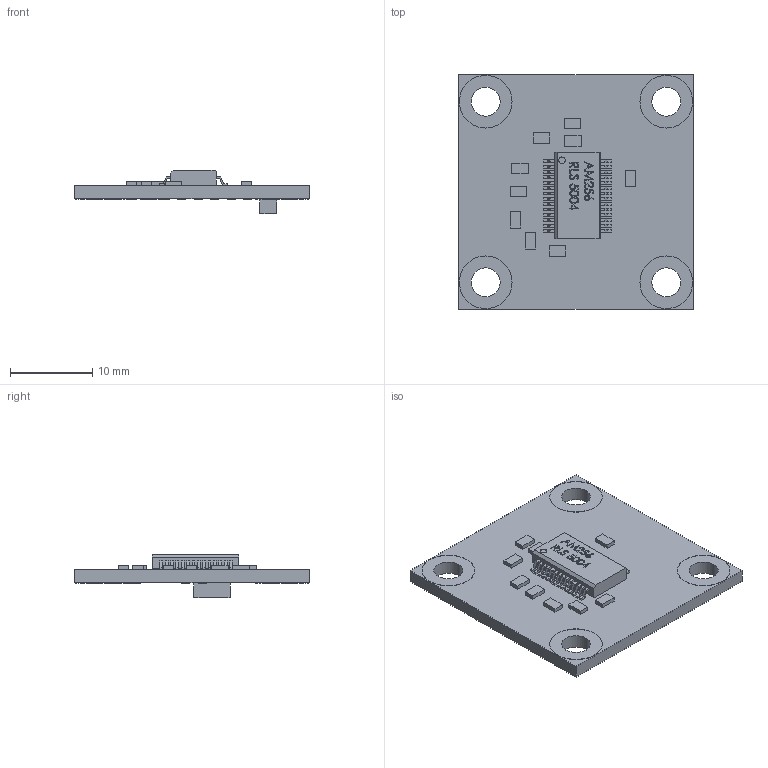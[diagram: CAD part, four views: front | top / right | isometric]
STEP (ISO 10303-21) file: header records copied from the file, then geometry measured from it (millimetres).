
FILE_DESCRIPTION (( 'STEP AP214' ), '1' );
FILE_NAME ('RMB28MD-MODM317.STEP', '2017-07-14T09:07:16', ( '' ), ( '' ), 'SwSTEP 2.0', 'SolidWorks 2016', '' );
FILE_SCHEMA (( 'AUTOMOTIVE_DESIGN' ));
Length unit declared in the file: millimetre
Products named in the file (1): RMB28MD-MODM317
Bounding box: 28.5 x 28.5 x 5.27 mm (x, y, z)
Volume: 1379.9 mm3; surface area: 2084.2 mm2
Topology: 1 solids, 1 shells, 546 faces, 1482 edges, 988 vertices
Faces by surface type: plane 449, bspline 69, cylinder 28
Entity records: 21400 total; most frequent: CARTESIAN_POINT 7662, ORIENTED_EDGE 2964, DIRECTION 2356, EDGE_CURVE 1482, VECTOR 1288, LINE 1288, VERTEX_POINT 988, EDGE_LOOP 658
